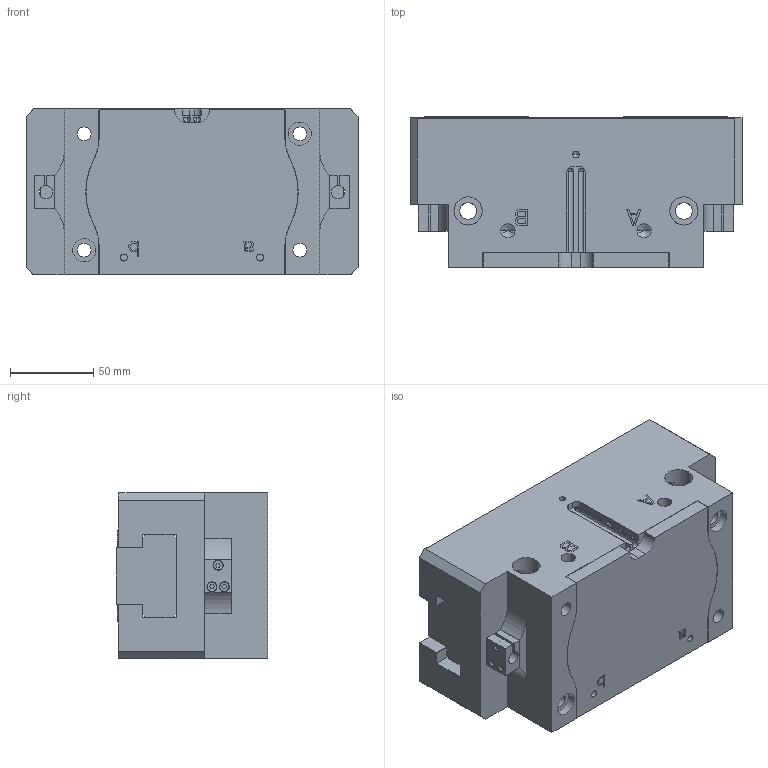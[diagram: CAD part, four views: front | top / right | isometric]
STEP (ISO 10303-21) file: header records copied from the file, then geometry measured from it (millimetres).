
FILE_DESCRIPTION (( 'STEP AP214' ), '1' );
FILE_NAME ('FPT-200A-1.STEP', '2020-07-06T23:31:34', ( '' ), ( '' ), 'SwSTEP 2.0', 'SolidWorks 2016', '' );
FILE_SCHEMA (( 'AUTOMOTIVE_DESIGN' ));
Length unit declared in the file: millimetre
Products named in the file (6): NAUO4; NAUO3; NAUO1; NAUO8; FPT-200A-1; NAUO2
Assembly tree (7 placements, depth 2):
  FPT-200A-1
    NAUO1
    NAUO2
    NAUO3
    NAUO4  x2
    NAUO8  x2
Bounding box: 200 x 91 x 100 mm (x, y, z)
Volume: 1519804.6 mm3; surface area: 206608.7 mm2
Topology: 7 solids, 7 shells, 597 faces, 1575 edges, 1018 vertices
Faces by surface type: plane 361, cylinder 176, cone 56, sphere 4
Entity records: 16603 total; most frequent: CARTESIAN_POINT 3475, DIRECTION 2681, ORIENTED_EDGE 2646, EDGE_CURVE 1323, LINE 965, VECTOR 965, VERTEX_POINT 880, AXIS2_PLACEMENT_3D 858
